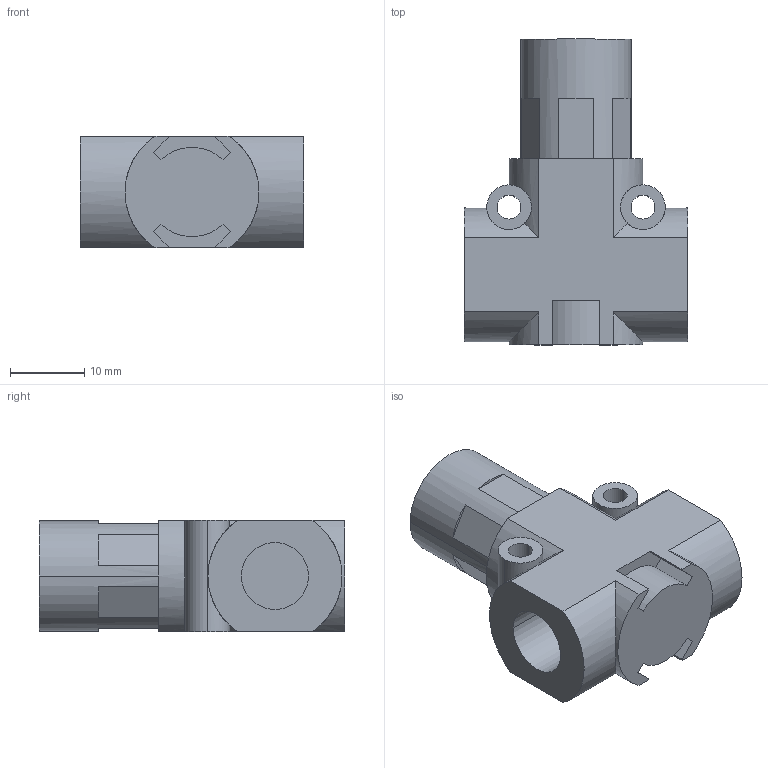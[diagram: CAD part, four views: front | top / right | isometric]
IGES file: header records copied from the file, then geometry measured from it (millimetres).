
Global section: file name: No Iges File Name specified; native system: Autodesk Inventor 2009; preprocessor: AutoDesk Inventor Iges Exporter R2009; author: rivolro1; date: 20090430.143915; units: millimetre
Bounding box: 30 x 41.1 x 15 mm (x, y, z)
Volume: 11390.6 mm3; surface area: 4791.7 mm2
Topology: 2 solids, 2 shells, 67 faces, 180 edges, 120 vertices
Faces by surface type: plane 32, cylinder 15, bspline 14, revolution 6
